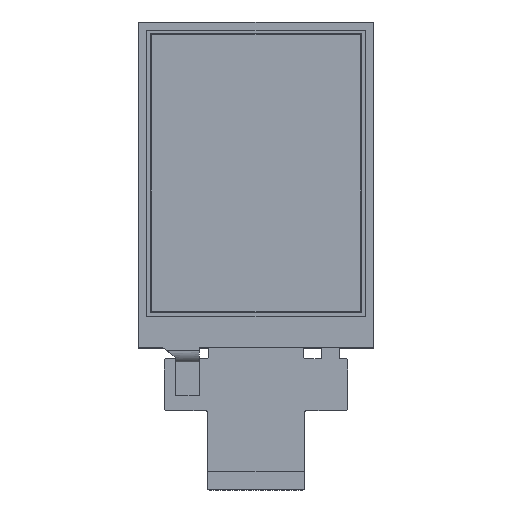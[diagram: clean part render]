
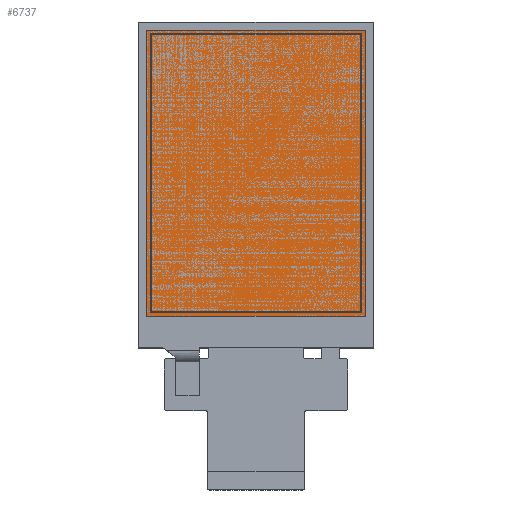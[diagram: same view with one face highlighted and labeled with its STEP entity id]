
A CAD part, top view. The second image highlights one B-rep face of the part: STEP entity #6737.
In plain terms, the highlighted planar face has unit normal (0, 0, 1).
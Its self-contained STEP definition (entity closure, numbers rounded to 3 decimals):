
#236 = AXIS2_PLACEMENT_3D ( 'NONE', #676, #7605, #1683 ) ;
#408 = CARTESIAN_POINT ( 'NONE',  ( -64.981, 73.106, 7.773 ) ) ;
#610 = LINE ( 'NONE', #11171, #5913 ) ;
#676 = CARTESIAN_POINT ( 'NONE',  ( -41.841, 40.236, 7.773 ) ) ;
#837 = CARTESIAN_POINT ( 'NONE',  ( -18.701, 73.106, 7.773 ) ) ;
#855 = VECTOR ( 'NONE', #1390, 1000. ) ;
#868 = VERTEX_POINT ( 'NONE', #8897 ) ;
#1390 = DIRECTION ( 'NONE',  ( -1., 0., 0. ) ) ;
#1402 = ORIENTED_EDGE ( 'NONE', *, *, #8457, .T. ) ;
#1683 = DIRECTION ( 'NONE',  ( 1., 0., 0. ) ) ;
#1790 = EDGE_CURVE ( 'NONE', #11182, #7813, #4908, .T. ) ;
#1916 = ORIENTED_EDGE ( 'NONE', *, *, #6408, .T. ) ;
#3080 = LINE ( 'NONE', #408, #7126 ) ;
#3175 = DIRECTION ( 'NONE',  ( 0., 1., 0. ) ) ;
#3258 = EDGE_CURVE ( 'NONE', #7813, #868, #8752, .T. ) ;
#4590 = VECTOR ( 'NONE', #3175, 1000. ) ;
#4908 = LINE ( 'NONE', #10144, #4590 ) ;
#5258 = DIRECTION ( 'NONE',  ( 1., 0., 0. ) ) ;
#5913 = VECTOR ( 'NONE', #5258, 1000. ) ;
#5918 = EDGE_LOOP ( 'NONE', ( #1916, #1402, #9856, #7153 ) ) ;
#6043 = FACE_OUTER_BOUND ( 'NONE', #5918, .T. ) ;
#6408 = EDGE_CURVE ( 'NONE', #868, #8107, #3080, .T. ) ;
#6737 = ADVANCED_FACE ( 'NONE', ( #6043 ), #9546, .T. ) ;
#7126 = VECTOR ( 'NONE', #9320, 1000. ) ;
#7153 = ORIENTED_EDGE ( 'NONE', *, *, #3258, .T. ) ;
#7605 = DIRECTION ( 'NONE',  ( 0., 0., 1. ) ) ;
#7813 = VERTEX_POINT ( 'NONE', #837 ) ;
#8107 = VERTEX_POINT ( 'NONE', #11173 ) ;
#8457 = EDGE_CURVE ( 'NONE', #8107, #11182, #610, .T. ) ;
#8752 = LINE ( 'NONE', #9340, #855 ) ;
#8897 = CARTESIAN_POINT ( 'NONE',  ( -64.981, 73.106, 7.773 ) ) ;
#8908 = CARTESIAN_POINT ( 'NONE',  ( -18.701, 12.426, 7.773 ) ) ;
#9320 = DIRECTION ( 'NONE',  ( 0., -1., 0. ) ) ;
#9340 = CARTESIAN_POINT ( 'NONE',  ( -64.981, 73.106, 7.773 ) ) ;
#9546 = PLANE ( 'NONE',  #236 ) ;
#9856 = ORIENTED_EDGE ( 'NONE', *, *, #1790, .T. ) ;
#10144 = CARTESIAN_POINT ( 'NONE',  ( -18.701, 73.106, 7.773 ) ) ;
#11171 = CARTESIAN_POINT ( 'NONE',  ( -64.981, 12.426, 7.773 ) ) ;
#11173 = CARTESIAN_POINT ( 'NONE',  ( -64.981, 12.426, 7.773 ) ) ;
#11182 = VERTEX_POINT ( 'NONE', #8908 ) ;
